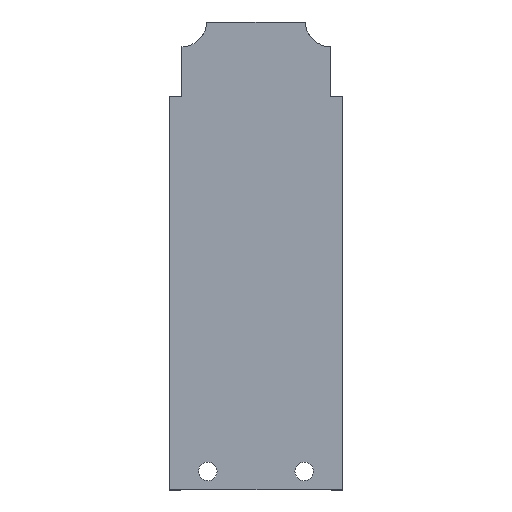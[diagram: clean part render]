
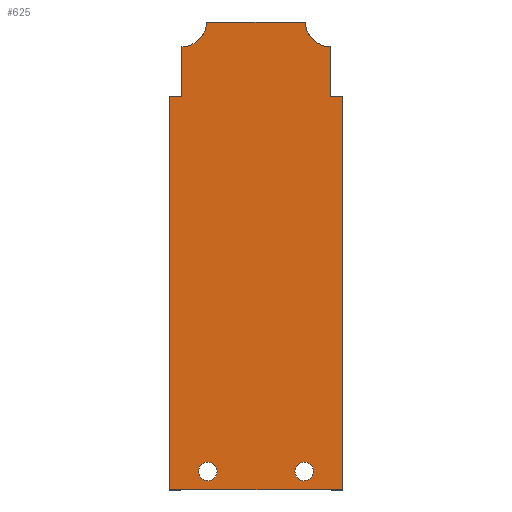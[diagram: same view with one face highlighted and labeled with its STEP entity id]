
A CAD part, top view. The second image highlights one B-rep face of the part: STEP entity #625.
In plain terms, the highlighted planar face has unit normal (0, 0, 1).
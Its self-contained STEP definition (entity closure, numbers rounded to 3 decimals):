
#17 = DIRECTION ( 'NONE',  ( 0., 0., -1. ) ) ;
#30 = CARTESIAN_POINT ( 'NONE',  ( -46.5, 3775., 4650. ) ) ;
#36 = VERTEX_POINT ( 'NONE', #2900 ) ;
#110 = FACE_BOUND ( 'NONE', #561, .T. ) ;
#142 = DIRECTION ( 'NONE',  ( -1., 0., 0. ) ) ;
#156 = CARTESIAN_POINT ( 'NONE',  ( 39., 3775., 4650. ) ) ;
#178 = LINE ( 'NONE', #1504, #1782 ) ;
#186 = DIRECTION ( 'NONE',  ( 1., 0., 0. ) ) ;
#212 = ORIENTED_EDGE ( 'NONE', *, *, #2011, .F. ) ;
#241 = VERTEX_POINT ( 'NONE', #2931 ) ;
#257 = EDGE_LOOP ( 'NONE', ( #1122, #2631 ) ) ;
#323 = LINE ( 'NONE', #2139, #1357 ) ;
#382 = CARTESIAN_POINT ( 'NONE',  ( -39., 3775., 4650. ) ) ;
#419 = EDGE_CURVE ( 'NONE', #2541, #241, #178, .T. ) ;
#424 = CARTESIAN_POINT ( 'NONE',  ( 60., 4139., 4650. ) ) ;
#463 = VERTEX_POINT ( 'NONE', #1126 ) ;
#530 = VERTEX_POINT ( 'NONE', #2659 ) ;
#557 = CARTESIAN_POINT ( 'NONE',  ( -70., 3760., 4650. ) ) ;
#561 = EDGE_LOOP ( 'NONE', ( #1170, #2411 ) ) ;
#572 = DIRECTION ( 'NONE',  ( 0., 0., -1. ) ) ;
#590 = LINE ( 'NONE', #1021, #1303 ) ;
#623 = LINE ( 'NONE', #557, #2497 ) ;
#625 = ADVANCED_FACE ( 'NONE', ( #755, #110, #1540 ), #1180, .F. ) ;
#639 = EDGE_CURVE ( 'NONE', #36, #530, #778, .T. ) ;
#644 = ORIENTED_EDGE ( 'NONE', *, *, #1331, .F. ) ;
#700 = CIRCLE ( 'NONE', #2365, 20. ) ;
#707 = CARTESIAN_POINT ( 'NONE',  ( -70., 4139., 4650. ) ) ;
#721 = LINE ( 'NONE', #707, #1716 ) ;
#736 = DIRECTION ( 'NONE',  ( 1., 0., 0. ) ) ;
#737 = ORIENTED_EDGE ( 'NONE', *, *, #1132, .F. ) ;
#755 = FACE_BOUND ( 'NONE', #257, .T. ) ;
#765 = EDGE_CURVE ( 'NONE', #792, #36, #590, .T. ) ;
#772 = CARTESIAN_POINT ( 'NONE',  ( 70., 3760., 4650. ) ) ;
#773 = DIRECTION ( 'NONE',  ( -1., 0., 0. ) ) ;
#778 = LINE ( 'NONE', #2005, #2802 ) ;
#782 = EDGE_CURVE ( 'NONE', #2703, #2265, #623, .T. ) ;
#792 = VERTEX_POINT ( 'NONE', #796 ) ;
#796 = CARTESIAN_POINT ( 'NONE',  ( -70., 4079., 4650. ) ) ;
#816 = EDGE_CURVE ( 'NONE', #2325, #1520, #976, .T. ) ;
#875 = CARTESIAN_POINT ( 'NONE',  ( 60., 4119., 4650. ) ) ;
#939 = ORIENTED_EDGE ( 'NONE', *, *, #765, .F. ) ;
#945 = CARTESIAN_POINT ( 'NONE',  ( -60., 4139., 4650. ) ) ;
#961 = CARTESIAN_POINT ( 'NONE',  ( -70., 3760., 4650. ) ) ;
#976 = CIRCLE ( 'NONE', #2361, 7.5 ) ;
#981 = EDGE_CURVE ( 'NONE', #2265, #792, #2351, .T. ) ;
#990 = DIRECTION ( 'NONE',  ( 0., 1., 0. ) ) ;
#1021 = CARTESIAN_POINT ( 'NONE',  ( -70., 4079., 4650. ) ) ;
#1061 = DIRECTION ( 'NONE',  ( 0., 0., -1. ) ) ;
#1115 = AXIS2_PLACEMENT_3D ( 'NONE', #1149, #17, #773 ) ;
#1122 = ORIENTED_EDGE ( 'NONE', *, *, #816, .T. ) ;
#1126 = CARTESIAN_POINT ( 'NONE',  ( -40., 4139., 4650. ) ) ;
#1132 = EDGE_CURVE ( 'NONE', #1469, #2943, #1167, .T. ) ;
#1149 = CARTESIAN_POINT ( 'NONE',  ( -70., 3760., 4650. ) ) ;
#1163 = VECTOR ( 'NONE', #990, 1000. ) ;
#1166 = DIRECTION ( 'NONE',  ( 0., 0., 1. ) ) ;
#1167 = CIRCLE ( 'NONE', #1354, 20. ) ;
#1170 = ORIENTED_EDGE ( 'NONE', *, *, #2668, .T. ) ;
#1180 = PLANE ( 'NONE',  #1115 ) ;
#1241 = DIRECTION ( 'NONE',  ( -1., 0., 0. ) ) ;
#1294 = CARTESIAN_POINT ( 'NONE',  ( -70., 3760., 4650. ) ) ;
#1303 = VECTOR ( 'NONE', #1718, 1000. ) ;
#1331 = EDGE_CURVE ( 'NONE', #2943, #2541, #323, .T. ) ;
#1354 = AXIS2_PLACEMENT_3D ( 'NONE', #424, #2230, #186 ) ;
#1357 = VECTOR ( 'NONE', #1915, 1000. ) ;
#1369 = DIRECTION ( 'NONE',  ( 0., 0., -1. ) ) ;
#1376 = DIRECTION ( 'NONE',  ( 0., 0., -1. ) ) ;
#1431 = DIRECTION ( 'NONE',  ( -1., 0., 0. ) ) ;
#1469 = VERTEX_POINT ( 'NONE', #2373 ) ;
#1484 = AXIS2_PLACEMENT_3D ( 'NONE', #156, #1061, #1983 ) ;
#1504 = CARTESIAN_POINT ( 'NONE',  ( -70., 4079., 4650. ) ) ;
#1520 = VERTEX_POINT ( 'NONE', #2123 ) ;
#1540 = FACE_OUTER_BOUND ( 'NONE', #2915, .T. ) ;
#1673 = CIRCLE ( 'NONE', #2196, 7.5 ) ;
#1716 = VECTOR ( 'NONE', #1860, 1000. ) ;
#1718 = DIRECTION ( 'NONE',  ( 1., 0., 0. ) ) ;
#1729 = ORIENTED_EDGE ( 'NONE', *, *, #782, .F. ) ;
#1782 = VECTOR ( 'NONE', #2656, 1000. ) ;
#1848 = VERTEX_POINT ( 'NONE', #2039 ) ;
#1853 = EDGE_CURVE ( 'NONE', #1520, #2325, #2899, .T. ) ;
#1860 = DIRECTION ( 'NONE',  ( 1., 0., 0. ) ) ;
#1915 = DIRECTION ( 'NONE',  ( 0., -1., 0. ) ) ;
#1925 = ORIENTED_EDGE ( 'NONE', *, *, #2358, .F. ) ;
#1948 = ORIENTED_EDGE ( 'NONE', *, *, #981, .F. ) ;
#1983 = DIRECTION ( 'NONE',  ( -1., 0., 0. ) ) ;
#2005 = CARTESIAN_POINT ( 'NONE',  ( -60., 3760., 4650. ) ) ;
#2008 = DIRECTION ( 'NONE',  ( -1., 0., 0. ) ) ;
#2011 = EDGE_CURVE ( 'NONE', #530, #463, #700, .T. ) ;
#2039 = CARTESIAN_POINT ( 'NONE',  ( 31.5, 3775., 4650. ) ) ;
#2063 = CARTESIAN_POINT ( 'NONE',  ( 39., 3775., 4650. ) ) ;
#2094 = CARTESIAN_POINT ( 'NONE',  ( 46.5, 3775., 4650. ) ) ;
#2123 = CARTESIAN_POINT ( 'NONE',  ( -31.5, 3775., 4650. ) ) ;
#2139 = CARTESIAN_POINT ( 'NONE',  ( 60., 3760., 4650. ) ) ;
#2160 = ORIENTED_EDGE ( 'NONE', *, *, #2575, .T. ) ;
#2196 = AXIS2_PLACEMENT_3D ( 'NONE', #2063, #1369, #1431 ) ;
#2230 = DIRECTION ( 'NONE',  ( 0., 0., 1. ) ) ;
#2265 = VERTEX_POINT ( 'NONE', #1294 ) ;
#2312 = CARTESIAN_POINT ( 'NONE',  ( 70., 3760., 4650. ) ) ;
#2325 = VERTEX_POINT ( 'NONE', #30 ) ;
#2351 = LINE ( 'NONE', #961, #1163 ) ;
#2358 = EDGE_CURVE ( 'NONE', #463, #1469, #721, .T. ) ;
#2361 = AXIS2_PLACEMENT_3D ( 'NONE', #382, #572, #1241 ) ;
#2365 = AXIS2_PLACEMENT_3D ( 'NONE', #945, #1166, #736 ) ;
#2373 = CARTESIAN_POINT ( 'NONE',  ( 40., 4139., 4650. ) ) ;
#2376 = LINE ( 'NONE', #772, #2731 ) ;
#2390 = VERTEX_POINT ( 'NONE', #2094 ) ;
#2411 = ORIENTED_EDGE ( 'NONE', *, *, #2913, .T. ) ;
#2448 = CARTESIAN_POINT ( 'NONE',  ( -39., 3775., 4650. ) ) ;
#2497 = VECTOR ( 'NONE', #142, 1000. ) ;
#2541 = VERTEX_POINT ( 'NONE', #2838 ) ;
#2557 = AXIS2_PLACEMENT_3D ( 'NONE', #2448, #1376, #2008 ) ;
#2575 = EDGE_CURVE ( 'NONE', #2703, #241, #2376, .T. ) ;
#2610 = DIRECTION ( 'NONE',  ( 0., 1., 0. ) ) ;
#2631 = ORIENTED_EDGE ( 'NONE', *, *, #1853, .T. ) ;
#2656 = DIRECTION ( 'NONE',  ( 1., 0., 0. ) ) ;
#2659 = CARTESIAN_POINT ( 'NONE',  ( -60., 4119., 4650. ) ) ;
#2668 = EDGE_CURVE ( 'NONE', #1848, #2390, #1673, .T. ) ;
#2703 = VERTEX_POINT ( 'NONE', #2312 ) ;
#2731 = VECTOR ( 'NONE', #2610, 1000. ) ;
#2765 = ORIENTED_EDGE ( 'NONE', *, *, #419, .F. ) ;
#2785 = CIRCLE ( 'NONE', #1484, 7.5 ) ;
#2802 = VECTOR ( 'NONE', #2956, 1000. ) ;
#2819 = ORIENTED_EDGE ( 'NONE', *, *, #639, .F. ) ;
#2838 = CARTESIAN_POINT ( 'NONE',  ( 60., 4079., 4650. ) ) ;
#2899 = CIRCLE ( 'NONE', #2557, 7.5 ) ;
#2900 = CARTESIAN_POINT ( 'NONE',  ( -60., 4079., 4650. ) ) ;
#2913 = EDGE_CURVE ( 'NONE', #2390, #1848, #2785, .T. ) ;
#2915 = EDGE_LOOP ( 'NONE', ( #644, #737, #1925, #212, #2819, #939, #1948, #1729, #2160, #2765 ) ) ;
#2931 = CARTESIAN_POINT ( 'NONE',  ( 70., 4079., 4650. ) ) ;
#2943 = VERTEX_POINT ( 'NONE', #875 ) ;
#2956 = DIRECTION ( 'NONE',  ( 0., 1., 0. ) ) ;
